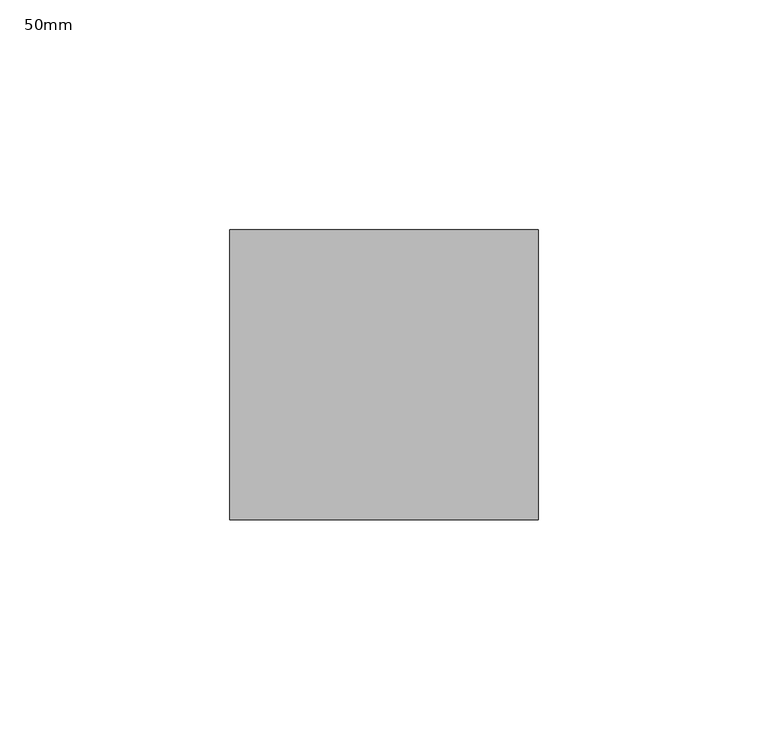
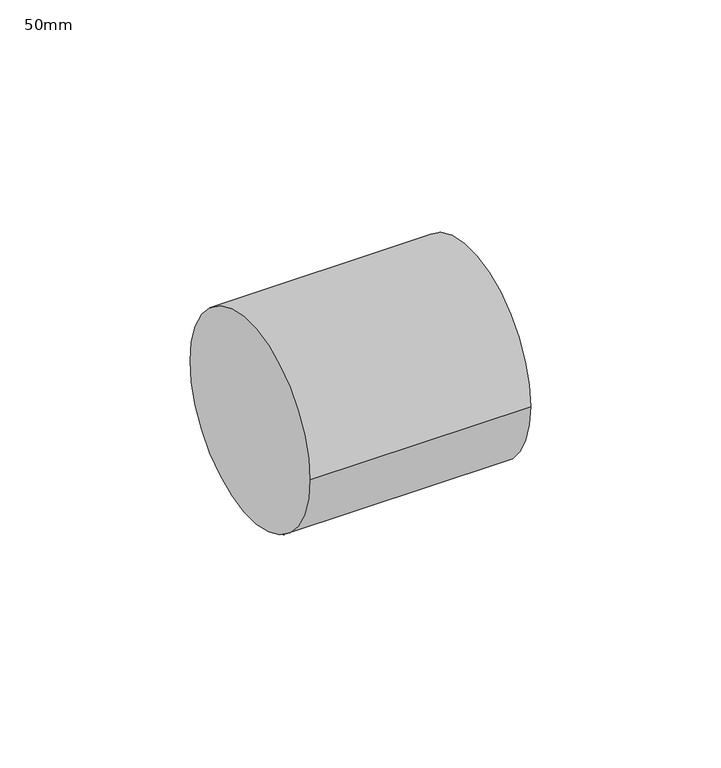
"""IFC4 building model written with IfcOpenShell, lengths in millimetres: pipe fitting geometry, PipeFitting_HTA_CPVC_Couplings : 50mm."""

from ifc_helpers import new_model, si_unit, point, frame, origin, origin_2d, place, context, project, spatial, circle_curve, trimmed, segment, composite_curve, outline, extrude, source, transform, mapped, element, save


def pipe_fitting_50mm_3731b0f2(model_context):
    return source(origin(), model_context, "Body", "SweptSolid", [
        extrude(outline(composite_curve([segment(trimmed(circle_curve(origin_2d(), 31.5), [point((-31.5, 0.0))], [point((31.5, 0.0))], False, "CARTESIAN"), True, "CONTINUOUS"), segment(trimmed(circle_curve(origin_2d(), 31.5), [point((31.5, 0.0))], [point((-31.5, 0.0))], False, "CARTESIAN"), True, "CONTINUOUS")], self_intersect=False)), frame((-33.5, 0.0, 0.0), z_axis=(1.0, 0.0, 0.0), x_axis=(0.0, 1.0, 0.0)), (0.0, 0.0, 1.0), 67.0),
    ])


if __name__ == "__main__":
    model = new_model("IFC4")
    model_context = context("Model", 3, world=origin())
    ifc_project = project(units=[si_unit("LENGTHUNIT", "METRE", prefix="MILLI")], contexts=[model_context])
    site = spatial("IfcSite", under=ifc_project)
    building = spatial("IfcBuilding", under=site)
    placement = place(None, origin())
    pipe_fitting_50mm_shape = pipe_fitting_50mm_3731b0f2(model_context)
    element("IfcPipeFitting", 1, ObjectType="PipeFitting_HTA_CPVC_Couplings : 50mm", at=placement, inside=building, context=model_context, shape_type="MappedRepresentation", body=[
        mapped(pipe_fitting_50mm_shape, transform((0.0, 0.0, 0.0), x_axis=(1.0, 0.0, 0.0), y_axis=(0.0, 1.0, 0.0), z_axis=(0.0, 0.0, 1.0))),
    ])
    save(model, "model.ifc")
